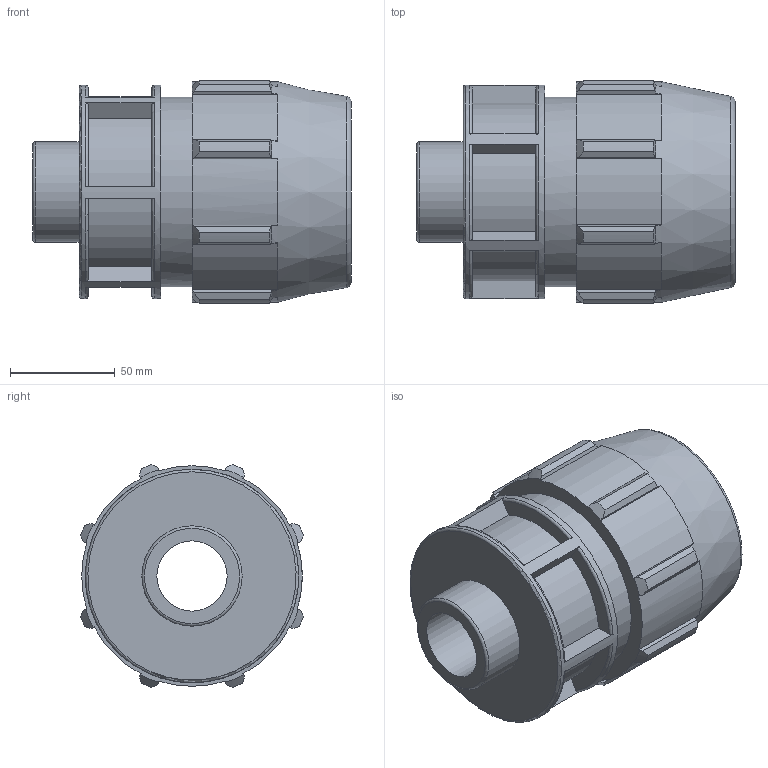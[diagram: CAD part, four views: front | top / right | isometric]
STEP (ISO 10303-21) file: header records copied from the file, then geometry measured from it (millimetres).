
FILE_DESCRIPTION(/* description */ ('PLASSON MALE ADAPTOR 2'''' - 1 1/2''''M'),/* implementation_level */ '2;1');
FILE_NAME(/* name */ 'C:\Dropbox\KIMPROJECTS-Inventor 2019\99-16-3568-Processing Inch\ASTM Compression 2021\0702M0T\0702M0T20015.ipt.stp',/* time_stamp */ '2021-08-26T12:30:27+03:00',/* author */ ('KIM'),/* organization */ (''),/* preprocessor_version */ 'ST-DEVELOPER v17.2',/* originating_system */ 'Autodesk Inventor 2019',/* authorisation */ '');
FILE_SCHEMA (('AUTOMOTIVE_DESIGN { 1 0 10303 214 3 1 1 }'));
Length unit declared in the file: inch
Products named in the file (1): 0702M0T20015
Bounding box: 151.89 x 106.35 x 106.35 mm (x, y, z)
Volume: 623935.2 mm3; surface area: 95915 mm2
Topology: 1 solids, 1 shells, 124 faces, 348 edges, 237 vertices
Faces by surface type: plane 63, cylinder 27, cone 19, torus 15
Full cylindrical faces by diameter (mm): 33.462 x1, 47.803 x1, 60.1 x1, 90.424 x1, 101.727 x1
Entity records: 4379 total; most frequent: CARTESIAN_POINT 990, ORIENTED_EDGE 696, DIRECTION 666, EDGE_CURVE 348, AXIS2_PLACEMENT_3D 249, VERTEX_POINT 237, LINE 168, VECTOR 168
